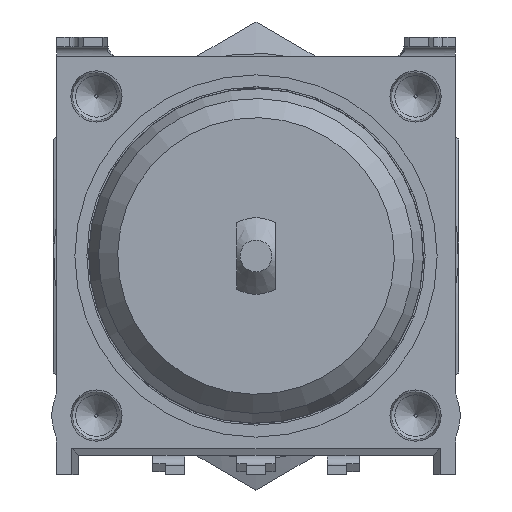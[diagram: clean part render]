
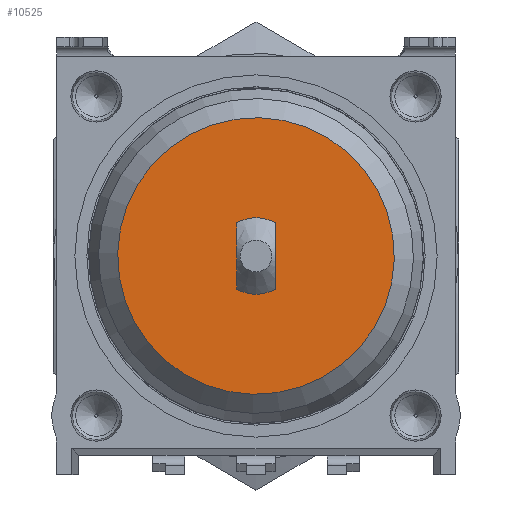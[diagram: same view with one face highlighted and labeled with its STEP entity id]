
A CAD part, left-side view. The second image highlights one B-rep face of the part: STEP entity #10525.
In plain terms, the highlighted planar face has unit normal (-1, 0, 0) as drawn and (0, 0, 1) by its records, which use the part's own axes.
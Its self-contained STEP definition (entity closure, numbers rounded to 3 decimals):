
#829=CIRCLE('',#12012,4.334);
#2750=ORIENTED_EDGE('',*,*,#4854,.T.);
#4854=EDGE_CURVE('',#6079,#6079,#829,.T.);
#6079=VERTEX_POINT('',#17241);
#8822=EDGE_LOOP('',(#2750));
#9554=FACE_BOUND('',#8822,.T.);
#10046=PLANE('',#12011);
#10525=ADVANCED_FACE('',(#9554),#10046,.T.);
#12011=AXIS2_PLACEMENT_3D('',#17239,#14118,#14119);
#12012=AXIS2_PLACEMENT_3D('',#17240,#14120,#14121);
#14118=DIRECTION('',(0.,0.,1.));
#14119=DIRECTION('',(1.,0.,0.));
#14120=DIRECTION('',(0.,0.,1.));
#14121=DIRECTION('',(1.,0.,0.));
#17239=CARTESIAN_POINT('',(0.,0.,1.4));
#17240=CARTESIAN_POINT('',(0.,0.,1.4));
#17241=CARTESIAN_POINT('',(4.334,0.,1.4));
